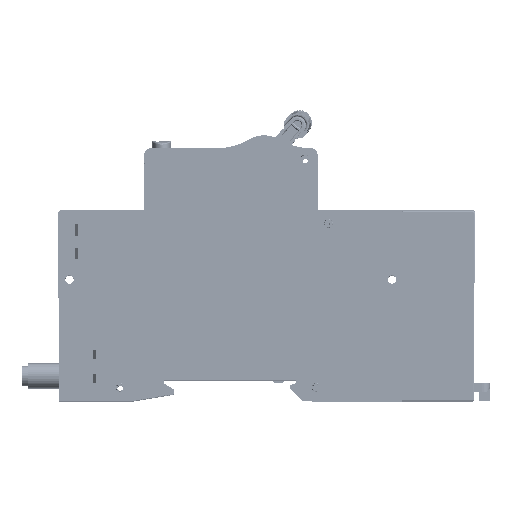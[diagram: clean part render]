
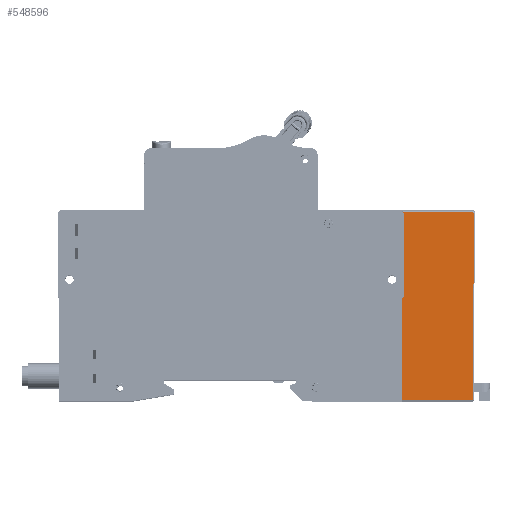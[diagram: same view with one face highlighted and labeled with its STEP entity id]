
A CAD part, top view. The second image highlights one B-rep face of the part: STEP entity #548596.
In plain terms, the highlighted planar face has unit normal (0, 0, 1).
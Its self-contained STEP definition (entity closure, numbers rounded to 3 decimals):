
#9962 = ORIENTED_EDGE ( 'NONE', *, *, #272997, .T. ) ;
#22306 = LINE ( 'NONE', #661119, #37229 ) ;
#34719 = VECTOR ( 'NONE', #530650, 1000. ) ;
#37229 = VECTOR ( 'NONE', #196048, 1000. ) ;
#75856 = CARTESIAN_POINT ( 'NONE',  ( 56.88, 7.332, 142.164 ) ) ;
#77630 = CARTESIAN_POINT ( 'NONE',  ( 56.88, -41.668, 142.164 ) ) ;
#82862 = VERTEX_POINT ( 'NONE', #918171 ) ;
#84984 = VERTEX_POINT ( 'NONE', #450587 ) ;
#131182 = CARTESIAN_POINT ( 'NONE',  ( 56.88, -41.368, 142.164 ) ) ;
#141086 = CIRCLE ( 'NONE', #706112, 0.95 ) ;
#158325 = VECTOR ( 'NONE', #599943, 1000. ) ;
#179559 = EDGE_CURVE ( 'NONE', #1045734, #526889, #1023322, .T. ) ;
#196048 = DIRECTION ( 'NONE',  ( 0., 1., 0. ) ) ;
#209097 = ORIENTED_EDGE ( 'NONE', *, *, #404816, .T. ) ;
#210417 = EDGE_CURVE ( 'NONE', #526889, #82862, #559650, .T. ) ;
#235611 = ORIENTED_EDGE ( 'NONE', *, *, #976415, .F. ) ;
#236079 = LINE ( 'NONE', #430539, #34719 ) ;
#258112 = LINE ( 'NONE', #280246, #415439 ) ;
#268888 = CARTESIAN_POINT ( 'NONE',  ( 55.88, 7.332, 142.164 ) ) ;
#272997 = EDGE_CURVE ( 'NONE', #1079544, #673728, #258112, .T. ) ;
#280246 = CARTESIAN_POINT ( 'NONE',  ( 38.38, -41.668, 142.164 ) ) ;
#359907 = CARTESIAN_POINT ( 'NONE',  ( 37.43, 6.682, 142.164 ) ) ;
#360407 = EDGE_LOOP ( 'NONE', ( #501724, #209097, #235611, #1145481, #1003047, #667875, #423900, #9962, #445578, #411617, #552214 ) ) ;
#373922 = VERTEX_POINT ( 'NONE', #1094805 ) ;
#382619 = CARTESIAN_POINT ( 'NONE',  ( 56.18, -41.668, 142.164 ) ) ;
#390450 = CARTESIAN_POINT ( 'NONE',  ( 38.38, 6.682, 142.164 ) ) ;
#397943 = EDGE_CURVE ( 'NONE', #410188, #1166532, #924458, .T. ) ;
#404816 = EDGE_CURVE ( 'NONE', #1141380, #373922, #22306, .T. ) ;
#410188 = VERTEX_POINT ( 'NONE', #924654 ) ;
#411617 = ORIENTED_EDGE ( 'NONE', *, *, #179559, .T. ) ;
#415439 = VECTOR ( 'NONE', #745443, 1000. ) ;
#423900 = ORIENTED_EDGE ( 'NONE', *, *, #499121, .F. ) ;
#430073 = DIRECTION ( 'NONE',  ( 0., 0., 1. ) ) ;
#430539 = CARTESIAN_POINT ( 'NONE',  ( 56.48, -11.168, 142.164 ) ) ;
#438926 = VECTOR ( 'NONE', #717340, 1000. ) ;
#445578 = ORIENTED_EDGE ( 'NONE', *, *, #840794, .T. ) ;
#450587 = CARTESIAN_POINT ( 'NONE',  ( 38.123, 7.332, 142.164 ) ) ;
#469173 = CARTESIAN_POINT ( 'NONE',  ( 56.58, 6.632, 142.164 ) ) ;
#499121 = EDGE_CURVE ( 'NONE', #1079544, #84984, #141086, .T. ) ;
#501724 = ORIENTED_EDGE ( 'NONE', *, *, #864466, .T. ) ;
#514426 = CARTESIAN_POINT ( 'NONE',  ( 55.88, 6.632, 142.164 ) ) ;
#518379 = DIRECTION ( 'NONE',  ( -1., 0., 0. ) ) ;
#526889 = VERTEX_POINT ( 'NONE', #875714 ) ;
#530506 = DIRECTION ( 'NONE',  ( -1., 0., 0. ) ) ;
#530650 = DIRECTION ( 'NONE',  ( -0.708, -0.706, 0. ) ) ;
#532641 = DIRECTION ( 'NONE',  ( -1., 0., 0. ) ) ;
#545300 = LINE ( 'NONE', #689300, #1119470 ) ;
#547787 = AXIS2_PLACEMENT_3D ( 'NONE', #514426, #430073, #518379 ) ;
#548596 = ADVANCED_FACE ( 'NONE', ( #1010172 ), #599141, .F. ) ;
#552214 = ORIENTED_EDGE ( 'NONE', *, *, #210417, .T. ) ;
#559650 = LINE ( 'NONE', #131182, #158325 ) ;
#564086 = EDGE_CURVE ( 'NONE', #776574, #84984, #926776, .T. ) ;
#566405 = DIRECTION ( 'NONE',  ( 0., -1., 0. ) ) ;
#588756 = CARTESIAN_POINT ( 'NONE',  ( 38.38, -14.645, 142.164 ) ) ;
#599141 = PLANE ( 'NONE',  #721192 ) ;
#599943 = DIRECTION ( 'NONE',  ( 1., 0., 0. ) ) ;
#654838 = CARTESIAN_POINT ( 'NONE',  ( 56.58, 6.632, 142.164 ) ) ;
#661119 = CARTESIAN_POINT ( 'NONE',  ( 56.18, -41.668, 142.164 ) ) ;
#667875 = ORIENTED_EDGE ( 'NONE', *, *, #564086, .T. ) ;
#673728 = VERTEX_POINT ( 'NONE', #588756 ) ;
#674594 = VECTOR ( 'NONE', #1016309, 1000. ) ;
#689300 = CARTESIAN_POINT ( 'NONE',  ( 38.38, -14.645, 142.164 ) ) ;
#706112 = AXIS2_PLACEMENT_3D ( 'NONE', #359907, #1081974, #532641 ) ;
#717340 = DIRECTION ( 'NONE',  ( -1., 0., 0. ) ) ;
#721192 = AXIS2_PLACEMENT_3D ( 'NONE', #77630, #1168165, #530506 ) ;
#745443 = DIRECTION ( 'NONE',  ( 0., -1., 0. ) ) ;
#776574 = VERTEX_POINT ( 'NONE', #268888 ) ;
#798690 = EDGE_CURVE ( 'NONE', #1166532, #776574, #887878, .T. ) ;
#837277 = VECTOR ( 'NONE', #566405, 1000. ) ;
#840794 = EDGE_CURVE ( 'NONE', #673728, #1045734, #545300, .T. ) ;
#864466 = EDGE_CURVE ( 'NONE', #82862, #1141380, #889655, .T. ) ;
#875714 = CARTESIAN_POINT ( 'NONE',  ( 38.03, -41.368, 142.164 ) ) ;
#887878 = CIRCLE ( 'NONE', #547787, 0.7 ) ;
#889655 = LINE ( 'NONE', #382619, #674594 ) ;
#906180 = CARTESIAN_POINT ( 'NONE',  ( 38.03, -14.994, 142.164 ) ) ;
#918171 = CARTESIAN_POINT ( 'NONE',  ( 56.18, -41.368, 142.164 ) ) ;
#924458 = LINE ( 'NONE', #469173, #939374 ) ;
#924654 = CARTESIAN_POINT ( 'NONE',  ( 56.58, -11.068, 142.164 ) ) ;
#926776 = LINE ( 'NONE', #75856, #438926 ) ;
#939374 = VECTOR ( 'NONE', #1010412, 1000. ) ;
#976415 = EDGE_CURVE ( 'NONE', #410188, #373922, #236079, .T. ) ;
#1003047 = ORIENTED_EDGE ( 'NONE', *, *, #798690, .T. ) ;
#1010172 = FACE_OUTER_BOUND ( 'NONE', #360407, .T. ) ;
#1010412 = DIRECTION ( 'NONE',  ( 0., 1., 0. ) ) ;
#1015482 = CARTESIAN_POINT ( 'NONE',  ( 38.03, -14.994, 142.164 ) ) ;
#1016309 = DIRECTION ( 'NONE',  ( 0., 1., 0. ) ) ;
#1023322 = LINE ( 'NONE', #1015482, #837277 ) ;
#1045734 = VERTEX_POINT ( 'NONE', #906180 ) ;
#1079544 = VERTEX_POINT ( 'NONE', #390450 ) ;
#1081619 = DIRECTION ( 'NONE',  ( -0.708, -0.706, 0. ) ) ;
#1081974 = DIRECTION ( 'NONE',  ( 0., 0., 1. ) ) ;
#1094805 = CARTESIAN_POINT ( 'NONE',  ( 56.18, -11.467, 142.164 ) ) ;
#1111833 = CARTESIAN_POINT ( 'NONE',  ( 56.18, -14.843, 142.164 ) ) ;
#1119470 = VECTOR ( 'NONE', #1081619, 1000. ) ;
#1141380 = VERTEX_POINT ( 'NONE', #1111833 ) ;
#1145481 = ORIENTED_EDGE ( 'NONE', *, *, #397943, .T. ) ;
#1166532 = VERTEX_POINT ( 'NONE', #654838 ) ;
#1168165 = DIRECTION ( 'NONE',  ( 0., 0., -1. ) ) ;
